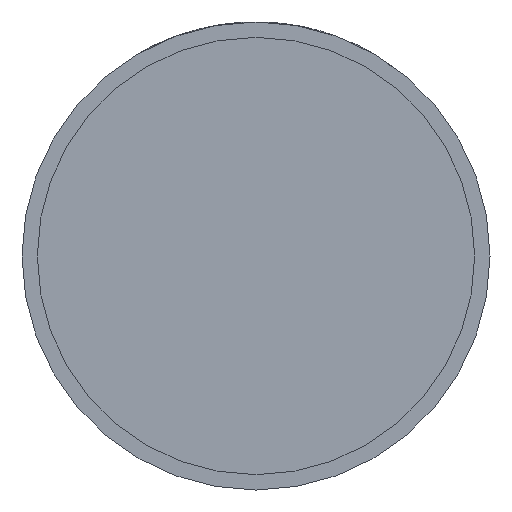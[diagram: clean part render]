
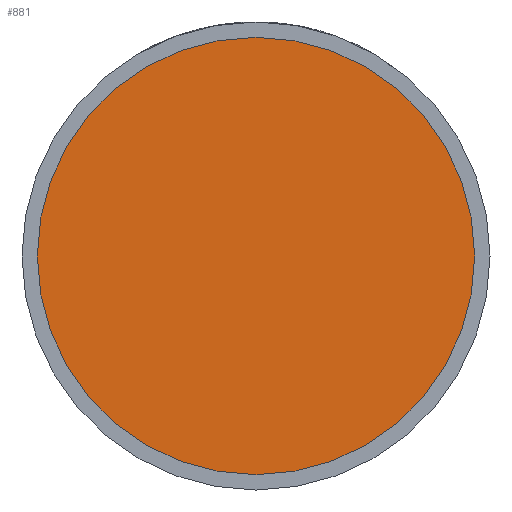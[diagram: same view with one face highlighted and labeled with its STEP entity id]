
A CAD part, front view. The second image highlights one B-rep face of the part: STEP entity #881.
In plain terms, the highlighted planar face has unit normal (0, -1, 0).
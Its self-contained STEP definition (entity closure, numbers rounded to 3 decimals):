
#664 = CIRCLE ( 'NONE', #4180, 28.5 ) ;
#881 = ADVANCED_FACE ( 'NONE', ( #3213 ), #3258, .T. ) ;
#887 = CARTESIAN_POINT ( 'NONE',  ( -28.5, -17.5, 0. ) ) ;
#1164 = EDGE_CURVE ( 'NONE', #2420, #2395, #664, .T. ) ;
#1278 = ORIENTED_EDGE ( 'NONE', *, *, #1164, .T. ) ;
#2255 = DIRECTION ( 'NONE',  ( 1., 0., 0. ) ) ;
#2376 = EDGE_CURVE ( 'NONE', #2395, #2420, #2496, .T. ) ;
#2395 = VERTEX_POINT ( 'NONE', #887 ) ;
#2420 = VERTEX_POINT ( 'NONE', #3898 ) ;
#2421 = DIRECTION ( 'NONE',  ( 1., 0., 0. ) ) ;
#2462 = DIRECTION ( 'NONE',  ( 0., -1., 0. ) ) ;
#2479 = EDGE_LOOP ( 'NONE', ( #1278, #3333 ) ) ;
#2496 = CIRCLE ( 'NONE', #4108, 28.5 ) ;
#3142 = CARTESIAN_POINT ( 'NONE',  ( 0., -17.5, 0. ) ) ;
#3213 = FACE_OUTER_BOUND ( 'NONE', #2479, .T. ) ;
#3258 = PLANE ( 'NONE',  #4047 ) ;
#3333 = ORIENTED_EDGE ( 'NONE', *, *, #2376, .T. ) ;
#3508 = CARTESIAN_POINT ( 'NONE',  ( 0., -17.5, 0. ) ) ;
#3539 = DIRECTION ( 'NONE',  ( 0., -1., 0. ) ) ;
#3810 = DIRECTION ( 'NONE',  ( 1., 0., 0. ) ) ;
#3890 = CARTESIAN_POINT ( 'NONE',  ( 28.5, -17.5, 0. ) ) ;
#3898 = CARTESIAN_POINT ( 'NONE',  ( 28.5, -17.5, 0. ) ) ;
#4047 = AXIS2_PLACEMENT_3D ( 'NONE', #3890, #3539, #2255 ) ;
#4108 = AXIS2_PLACEMENT_3D ( 'NONE', #3508, #4138, #3810 ) ;
#4138 = DIRECTION ( 'NONE',  ( 0., -1., 0. ) ) ;
#4180 = AXIS2_PLACEMENT_3D ( 'NONE', #3142, #2462, #2421 ) ;
